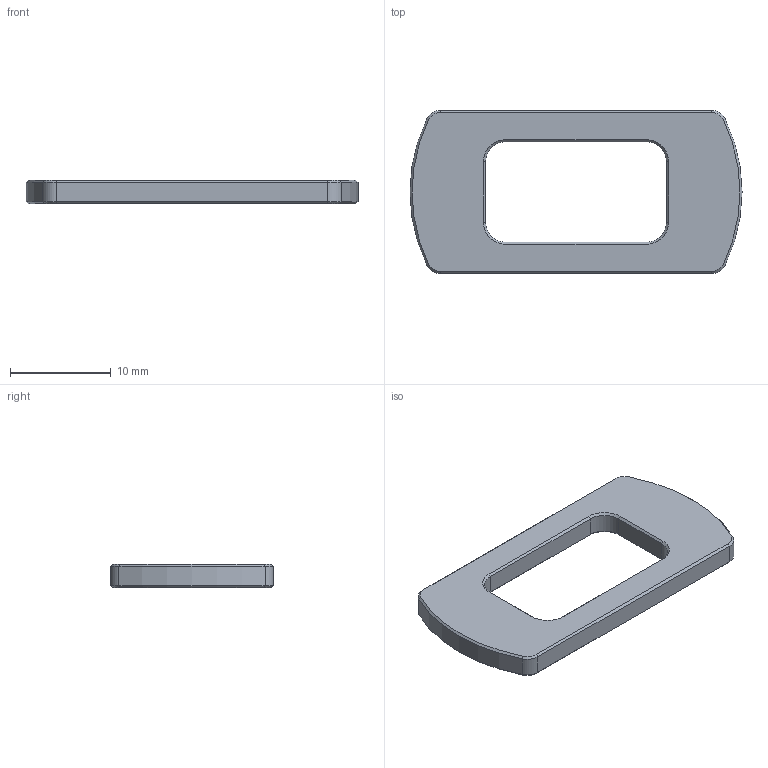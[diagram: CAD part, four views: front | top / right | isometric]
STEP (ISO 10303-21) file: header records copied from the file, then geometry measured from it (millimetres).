
FILE_DESCRIPTION(('CATIA V5 STEP Exchange','CAx-IF Rec.Pracs.--- Model Styling and Organization---1.4--- 2014-01-23','CAx-IF Rec.Pracs.---3D Tessellated Data Validation Properties---0.5---2014-09-14'),'2;1');
FILE_NAME('C:\Users\IS33\Desktop\220112移動データ\手配用データ\DT341M506-00-.stp','2022-01-12T09:03:15+00:00',('none'),('none'),'CATIA Version 5-6 Release 2019 SP3','CATIA V5 STEP AP242 v1','none');
FILE_SCHEMA(('AP242_MANAGED_MODEL_BASED_3D_ENGINEERING_MIM_LF {1 0 10303 442 1 1 4}'));
Length unit declared in the file: millimetre
Products named in the file (1): spacer1_3-3
Bounding box: 33 x 16.2 x 2.31 mm (x, y, z)
Volume: 766.8 mm3; surface area: 966.8 mm2
Topology: 1 solids, 1 shells, 50 faces, 112 edges, 64 vertices
Faces by surface type: cone 20, plane 20, cylinder 10
Entity records: 1345 total; most frequent: CARTESIAN_POINT 227, ORIENTED_EDGE 224, DIRECTION 212, EDGE_CURVE 112, AXIS2_PLACEMENT_3D 91, VECTOR 72, LINE 72, VERTEX_POINT 64
